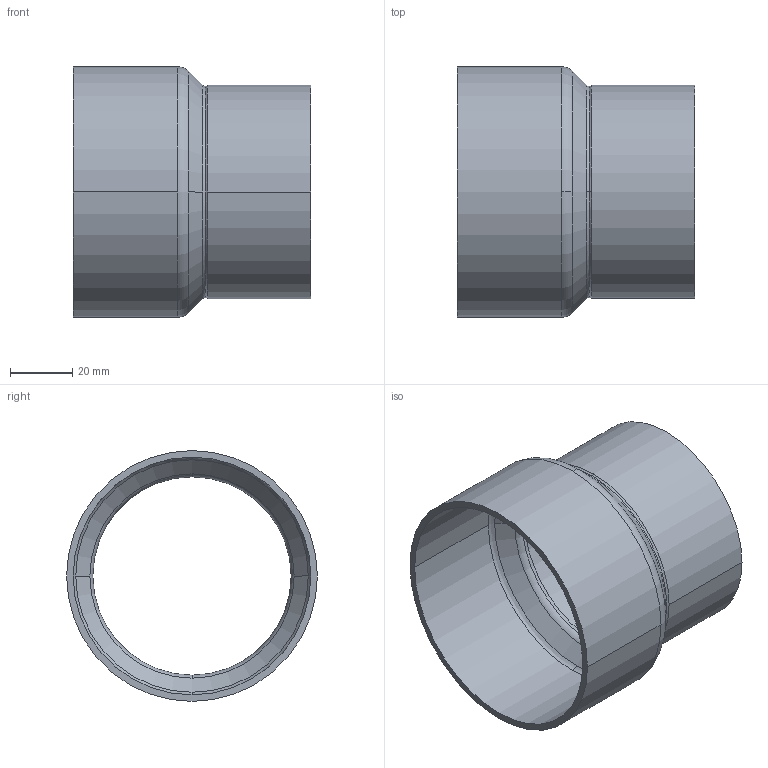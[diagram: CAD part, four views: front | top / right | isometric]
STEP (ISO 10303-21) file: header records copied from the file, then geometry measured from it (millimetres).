
FILE_DESCRIPTION((''),'2;1');
FILE_NAME('G:\Technics\CAD\Bauteile\Serie 15240\152407664.stp','2005-10-21T12:51:20',('boden'),(''),'Autodesk Inventor 8','Autodesk Inventor 8','');
FILE_SCHEMA(('AUTOMOTIVE_DESIGN { 1 0 10303 214 1 1 1 1 }'));
Length unit declared in the file: millimetre
Products named in the file (1): 152407664
Bounding box: 76.2 x 80.5 x 80.5 mm (x, y, z)
Volume: 37503.3 mm3; surface area: 36674.1 mm2
Topology: 1 solids, 1 shells, 26 faces, 68 edges, 44 vertices
Faces by surface type: cylinder 8, torus 6, bspline 6, cone 4, plane 2
Entity records: 1103 total; most frequent: CARTESIAN_POINT 403, DIRECTION 166, ORIENTED_EDGE 136, AXIS2_PLACEMENT_3D 77, EDGE_CURVE 68, CIRCLE 56, VERTEX_POINT 44, EDGE_LOOP 28
